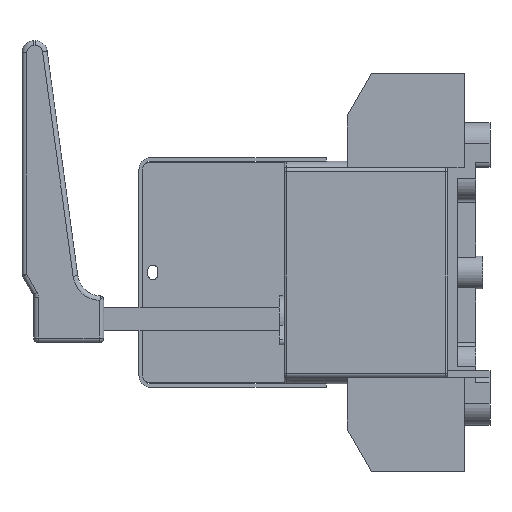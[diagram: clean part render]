
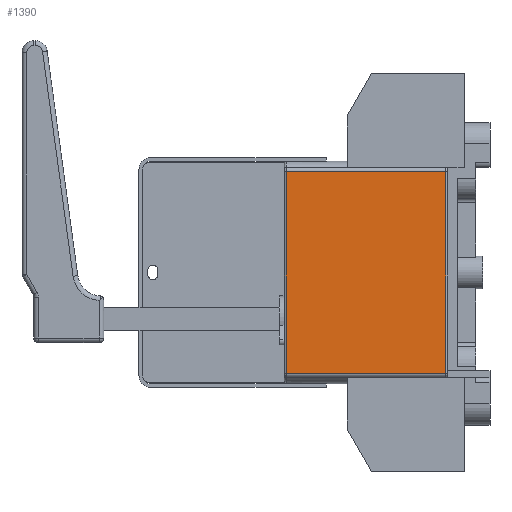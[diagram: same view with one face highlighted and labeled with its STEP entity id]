
A CAD part, left-side view. The second image highlights one B-rep face of the part: STEP entity #1390.
In plain terms, the highlighted planar face has unit normal (-1, 0, 0).
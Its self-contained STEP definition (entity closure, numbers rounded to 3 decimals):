
#454=FACE_OUTER_BOUND('',#4130,.T.);
#1390=ADVANCED_FACE('',(#454),#2381,.F.);
#2381=PLANE('',#19675);
#4130=EDGE_LOOP('',(#5703,#5704,#5705,#5706));
#5703=ORIENTED_EDGE('',*,*,#13091,.F.);
#5704=ORIENTED_EDGE('',*,*,#13092,.T.);
#5705=ORIENTED_EDGE('',*,*,#13088,.T.);
#5706=ORIENTED_EDGE('',*,*,#13093,.T.);
#11220=VERTEX_POINT('',#27726);
#11221=VERTEX_POINT('',#27727);
#11222=VERTEX_POINT('',#27732);
#11223=VERTEX_POINT('',#27733);
#13088=EDGE_CURVE('',#11220,#11221,#15778,.T.);
#13091=EDGE_CURVE('',#11222,#11223,#15779,.T.);
#13092=EDGE_CURVE('',#11222,#11220,#15780,.T.);
#13093=EDGE_CURVE('',#11221,#11223,#15781,.T.);
#15778=LINE('',#27725,#17773);
#15779=LINE('',#27731,#17774);
#15780=LINE('',#27734,#17775);
#15781=LINE('',#27735,#17776);
#17773=VECTOR('',#21817,1.);
#17774=VECTOR('',#21824,1.);
#17775=VECTOR('',#21825,1.);
#17776=VECTOR('',#21826,1.);
#19675=AXIS2_PLACEMENT_3D('',#27736,#21827,#21828);
#21817=DIRECTION('',(0.,-1.,0.));
#21824=DIRECTION('',(0.,-1.,0.));
#21825=DIRECTION('',(0.,0.,-1.));
#21826=DIRECTION('',(0.,0.,1.));
#21827=DIRECTION('',(1.,0.,0.));
#21828=DIRECTION('',(0.,0.,-1.));
#27725=CARTESIAN_POINT('',(-41.,35.,-43.));
#27726=CARTESIAN_POINT('',(-41.,69.,-43.));
#27727=CARTESIAN_POINT('',(-41.,1.,-43.));
#27731=CARTESIAN_POINT('',(-41.,35.,43.));
#27732=CARTESIAN_POINT('',(-41.,69.,43.));
#27733=CARTESIAN_POINT('',(-41.,1.,43.));
#27734=CARTESIAN_POINT('',(-41.,69.,-43.));
#27735=CARTESIAN_POINT('',(-41.,1.,-43.));
#27736=CARTESIAN_POINT('',(-41.,35.,-43.));
